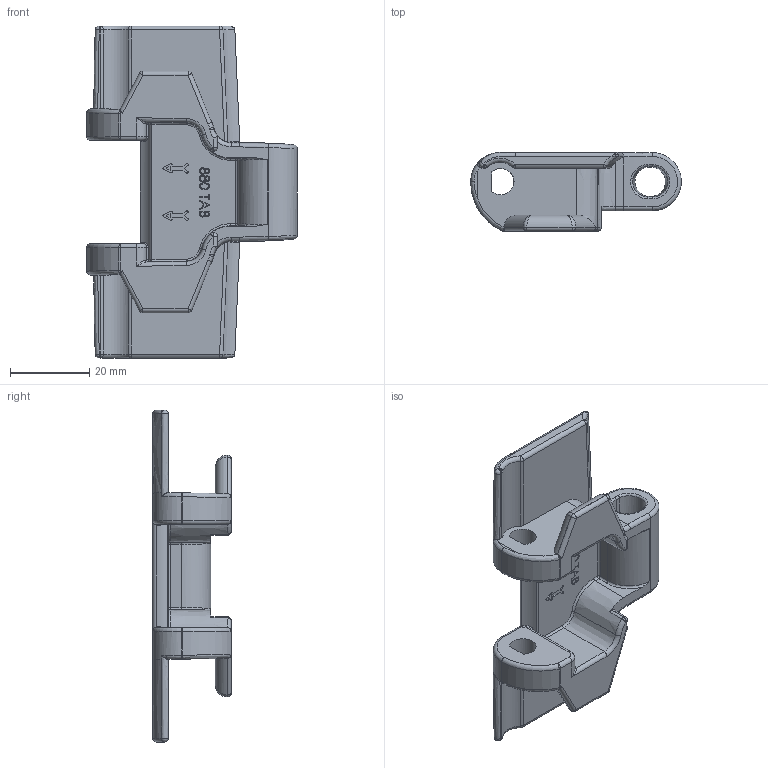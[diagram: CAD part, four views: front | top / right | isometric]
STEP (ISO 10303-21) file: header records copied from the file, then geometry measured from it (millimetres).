
FILE_DESCRIPTION (( 'STEP AP214' ), '1' );
FILE_NAME ('LF880330TAB.2.STEP', '2025-06-12T12:35:26', ( '' ), ( '' ), 'SwSTEP 2.0', 'SolidWorks 2022', '' );
FILE_SCHEMA (( 'AUTOMOTIVE_DESIGN' ));
Length unit declared in the file: millimetre
Products named in the file (1): LF880330TAB.2
Bounding box: 53.15 x 19.88 x 83.8 mm (x, y, z)
Volume: 19846.5 mm3; surface area: 11598.6 mm2
Topology: 1 solids, 1 shells, 411 faces, 1046 edges, 616 vertices
Faces by surface type: plane 126, cylinder 111, bspline 111, torus 28, sphere 25, cone 10
Entity records: 17659 total; most frequent: CARTESIAN_POINT 8805, ORIENTED_EDGE 2014, DIRECTION 1579, EDGE_CURVE 1007, VERTEX_POINT 616, AXIS2_PLACEMENT_3D 560, VECTOR 459, LINE 459
